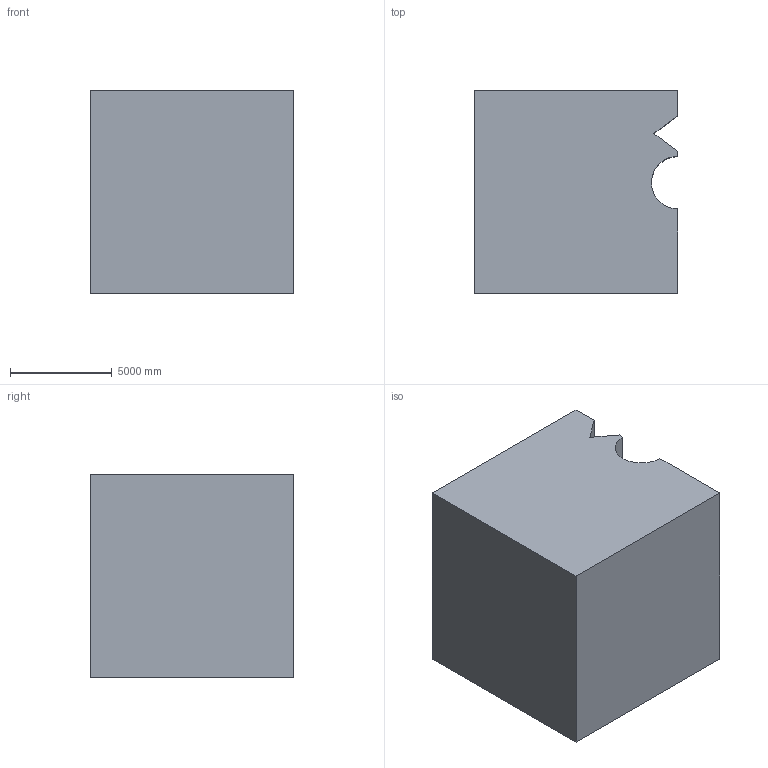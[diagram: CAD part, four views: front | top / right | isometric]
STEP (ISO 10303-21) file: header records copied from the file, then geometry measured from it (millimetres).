
FILE_DESCRIPTION (( 'STEP AP203' ), '1' );
FILE_NAME ('120.STEP', '2022-07-28T13:39:57', ( 'user' ), ( '' ), 'SwSTEP 2.0', 'SolidWorks 2021', '' );
FILE_SCHEMA (( 'CONFIG_CONTROL_DESIGN' ));
Length unit declared in the file: centimetre
Products named in the file (1): 120
Bounding box: 10000 x 10000 x 10000 mm (x, y, z)
Volume: 963648026925.9 mm3; surface area: 619135627.4 mm2
Topology: 1 solids, 1 shells, 11 faces, 27 edges, 18 vertices
Faces by surface type: plane 10, cylinder 1
Entity records: 400 total; most frequent: CARTESIAN_POINT 57, ORIENTED_EDGE 54, DIRECTION 53, EDGE_CURVE 27, LINE 25, VECTOR 25, VERTEX_POINT 18, AXIS2_PLACEMENT_3D 14
